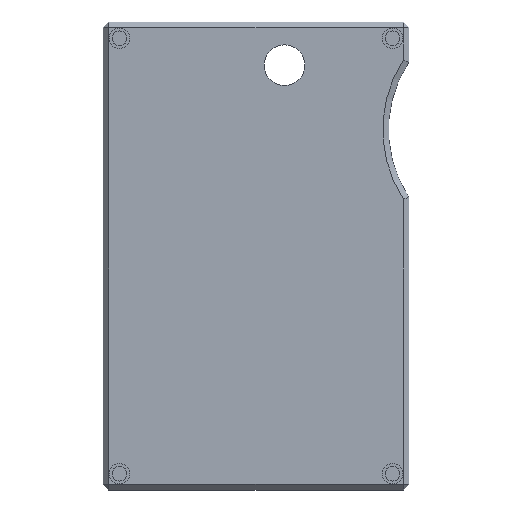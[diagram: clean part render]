
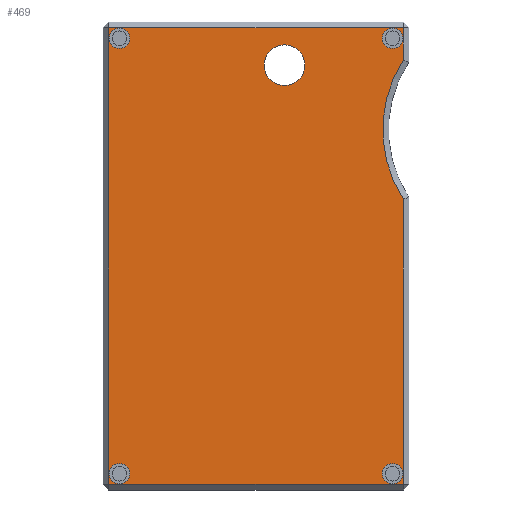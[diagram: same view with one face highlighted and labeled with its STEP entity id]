
A CAD part, top view. The second image highlights one B-rep face of the part: STEP entity #469.
In plain terms, the highlighted planar face has unit normal (0, 0, 1).
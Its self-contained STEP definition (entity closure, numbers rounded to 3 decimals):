
#64 = VERTEX_POINT('',#65);
#65 = CARTESIAN_POINT('',(18.05,-3.5,11.5));
#74 = VERTEX_POINT('',#75);
#75 = CARTESIAN_POINT('',(18.05,-20.5,11.5));
#82 = EDGE_CURVE('',#64,#74,#83,.T.);
#83 = CIRCLE('',#84,15.7);
#84 = AXIS2_PLACEMENT_3D('',#85,#86,#87);
#85 = CARTESIAN_POINT('',(31.25,-12.,11.5));
#86 = DIRECTION('',(0.,0.,1.));
#87 = DIRECTION('',(-0.88,0.475,0.));
#449 = EDGE_CURVE('',#64,#450,#452,.T.);
#450 = VERTEX_POINT('',#451);
#451 = CARTESIAN_POINT('',(18.05,0.5,11.5));
#452 = LINE('',#453,#454);
#453 = CARTESIAN_POINT('',(18.05,-3.708,11.5));
#454 = VECTOR('',#455,1.);
#455 = DIRECTION('',(0.,1.,0.));
#469 = ADVANCED_FACE('',(#470,#504,#515,#526,#537,#548),#559,.T.);
#470 = FACE_BOUND('',#471,.T.);
#471 = EDGE_LOOP('',(#472,#473,#481,#489,#497,#503));
#472 = ORIENTED_EDGE('',*,*,#449,.T.);
#473 = ORIENTED_EDGE('',*,*,#474,.T.);
#474 = EDGE_CURVE('',#450,#475,#477,.T.);
#475 = VERTEX_POINT('',#476);
#476 = CARTESIAN_POINT('',(-18.05,0.5,11.5));
#477 = LINE('',#478,#479);
#478 = CARTESIAN_POINT('',(18.75,0.5,11.5));
#479 = VECTOR('',#480,1.);
#480 = DIRECTION('',(-1.,0.,0.));
#481 = ORIENTED_EDGE('',*,*,#482,.T.);
#482 = EDGE_CURVE('',#475,#483,#485,.T.);
#483 = VERTEX_POINT('',#484);
#484 = CARTESIAN_POINT('',(-18.05,-55.5,11.5));
#485 = LINE('',#486,#487);
#486 = CARTESIAN_POINT('',(-18.05,1.2,11.5));
#487 = VECTOR('',#488,1.);
#488 = DIRECTION('',(0.,-1.,0.));
#489 = ORIENTED_EDGE('',*,*,#490,.T.);
#490 = EDGE_CURVE('',#483,#491,#493,.T.);
#491 = VERTEX_POINT('',#492);
#492 = CARTESIAN_POINT('',(18.05,-55.5,11.5));
#493 = LINE('',#494,#495);
#494 = CARTESIAN_POINT('',(-18.75,-55.5,11.5));
#495 = VECTOR('',#496,1.);
#496 = DIRECTION('',(1.,0.,0.));
#497 = ORIENTED_EDGE('',*,*,#498,.T.);
#498 = EDGE_CURVE('',#491,#74,#499,.T.);
#499 = LINE('',#500,#501);
#500 = CARTESIAN_POINT('',(18.05,-56.2,11.5));
#501 = VECTOR('',#502,1.);
#502 = DIRECTION('',(0.,1.,0.));
#503 = ORIENTED_EDGE('',*,*,#82,.F.);
#504 = FACE_BOUND('',#505,.T.);
#505 = EDGE_LOOP('',(#506));
#506 = ORIENTED_EDGE('',*,*,#507,.T.);
#507 = EDGE_CURVE('',#508,#508,#510,.T.);
#508 = VERTEX_POINT('',#509);
#509 = CARTESIAN_POINT('',(-15.5,-54.2,11.5));
#510 = CIRCLE('',#511,1.25);
#511 = AXIS2_PLACEMENT_3D('',#512,#513,#514);
#512 = CARTESIAN_POINT('',(-16.75,-54.2,11.5));
#513 = DIRECTION('',(0.,0.,-1.));
#514 = DIRECTION('',(1.,0.,0.));
#515 = FACE_BOUND('',#516,.T.);
#516 = EDGE_LOOP('',(#517));
#517 = ORIENTED_EDGE('',*,*,#518,.T.);
#518 = EDGE_CURVE('',#519,#519,#521,.T.);
#519 = VERTEX_POINT('',#520);
#520 = CARTESIAN_POINT('',(18.,-54.2,11.5));
#521 = CIRCLE('',#522,1.25);
#522 = AXIS2_PLACEMENT_3D('',#523,#524,#525);
#523 = CARTESIAN_POINT('',(16.75,-54.2,11.5));
#524 = DIRECTION('',(0.,0.,-1.));
#525 = DIRECTION('',(1.,0.,0.));
#526 = FACE_BOUND('',#527,.T.);
#527 = EDGE_LOOP('',(#528));
#528 = ORIENTED_EDGE('',*,*,#529,.T.);
#529 = EDGE_CURVE('',#530,#530,#532,.T.);
#530 = VERTEX_POINT('',#531);
#531 = CARTESIAN_POINT('',(-15.5,-0.8,11.5));
#532 = CIRCLE('',#533,1.25);
#533 = AXIS2_PLACEMENT_3D('',#534,#535,#536);
#534 = CARTESIAN_POINT('',(-16.75,-0.8,11.5));
#535 = DIRECTION('',(0.,0.,-1.));
#536 = DIRECTION('',(1.,0.,0.));
#537 = FACE_BOUND('',#538,.T.);
#538 = EDGE_LOOP('',(#539));
#539 = ORIENTED_EDGE('',*,*,#540,.F.);
#540 = EDGE_CURVE('',#541,#541,#543,.T.);
#541 = VERTEX_POINT('',#542);
#542 = CARTESIAN_POINT('',(6.,-4.1,11.5));
#543 = CIRCLE('',#544,2.5);
#544 = AXIS2_PLACEMENT_3D('',#545,#546,#547);
#545 = CARTESIAN_POINT('',(3.5,-4.1,11.5));
#546 = DIRECTION('',(0.,0.,1.));
#547 = DIRECTION('',(1.,0.,0.));
#548 = FACE_BOUND('',#549,.T.);
#549 = EDGE_LOOP('',(#550));
#550 = ORIENTED_EDGE('',*,*,#551,.T.);
#551 = EDGE_CURVE('',#552,#552,#554,.T.);
#552 = VERTEX_POINT('',#553);
#553 = CARTESIAN_POINT('',(18.,-0.8,11.5));
#554 = CIRCLE('',#555,1.25);
#555 = AXIS2_PLACEMENT_3D('',#556,#557,#558);
#556 = CARTESIAN_POINT('',(16.75,-0.8,11.5));
#557 = DIRECTION('',(0.,0.,-1.));
#558 = DIRECTION('',(1.,0.,0.));
#559 = PLANE('',#560);
#560 = AXIS2_PLACEMENT_3D('',#561,#562,#563);
#561 = CARTESIAN_POINT('',(0.177,-25.941,11.5));
#562 = DIRECTION('',(0.,0.,1.));
#563 = DIRECTION('',(1.,0.,0.));
